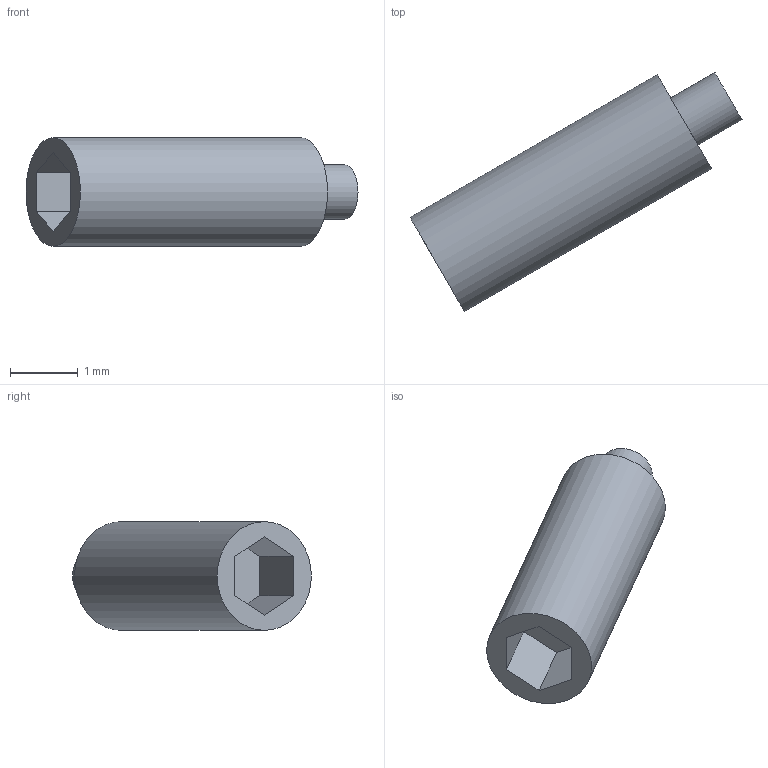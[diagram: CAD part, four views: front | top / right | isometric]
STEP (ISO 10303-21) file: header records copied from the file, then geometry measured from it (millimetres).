
FILE_DESCRIPTION(('Open CASCADE Model'),'2;1');
FILE_NAME('Open CASCADE Shape Model','2026-09-24T19:52:59',('Author'),( 'Open CASCADE'),'Open CASCADE STEP processor 7.8','Open CASCADE 7.8' ,'Unknown');
FILE_SCHEMA(('AUTOMOTIVE_DESIGN { 1 0 10303 214 1 1 1 1 }'));
Length unit declared in the file: millimetre
Products named in the file (1): Open CASCADE STEP translator 7.8 62
Bounding box: 4.89 x 3.51 x 1.6 mm (x, y, z)
Volume: 8 mm3; surface area: 30.5 mm2
Topology: 1 solids, 1 shells, 12 faces, 24 edges, 16 vertices
Faces by surface type: plane 10, cylinder 2
Full cylindrical faces by diameter (mm): 0.8 x1, 1.6 x1
Entity records: 634 total; most frequent: DIRECTION 102, CARTESIAN_POINT 101, LINE 64, VECTOR 64, ORIENTED_EDGE 48, PCURVE 48, DEFINITIONAL_REPRESENTATION 48, EDGE_CURVE 24
